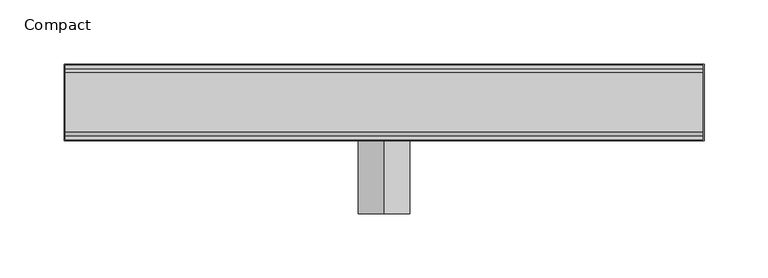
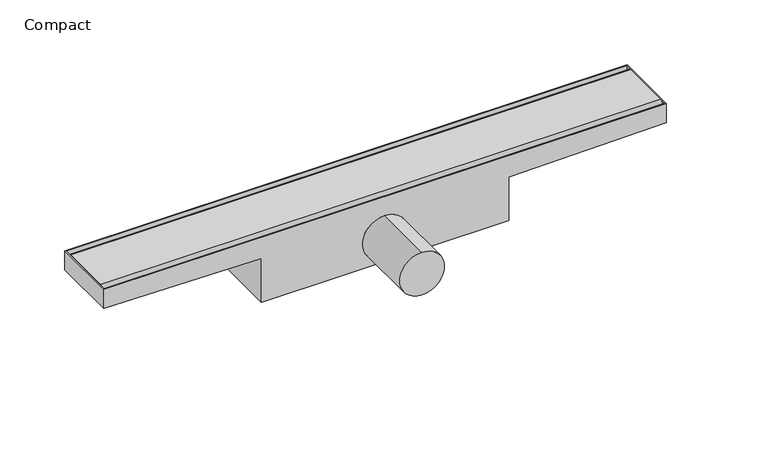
"""IFC4 building model written with IfcOpenShell, lengths in millimetres: sanitary terminal geometry, NLRS_PF_52_UN_Compact_Easydrain : Compact."""

from ifc_helpers import new_model, si_unit, point, frame, frame_2d, origin, place, context, project, spatial, polyline, circle_curve, trimmed, segment, composite_curve, outline, extrude, source, transform, mapped, element, save
from ifc_brep_helpers import plane_surface, cylinder_surface, advanced_brep


def compact_608fc20b(model_context):
    return source(origin(), model_context, "Body", "SolidModel", [
        extrude(outline(composite_curve([segment(polyline([(-23.0, 0.0), (23.0, 0.0)]), True, "CONTINUOUS"), segment(trimmed(circle_curve(frame_2d((23.0, -3.0)), 3.0), [point((23.0, 0.0))], [point((26.0, -3.0))], False, "CARTESIAN"), True, "CONTINUOUS"), segment(polyline([(26.0, -3.0), (26.0, -12.0), (-26.0, -12.0), (-26.0, -3.0)]), True, "CONTINUOUS"), segment(trimmed(circle_curve(frame_2d((-23.0, -3.0)), 3.0), [point((-26.0, -3.0))], [point((-23.0, 0.0))], False, "CARTESIAN"), True, "CONTINUOUS")], self_intersect=False)), frame((-249.0, 0.0, 0.0), z_axis=(1.0, 0.0, 0.0), x_axis=(0.0, 1.0, 0.0)), (0.0, 0.0, 1.0), 498.0),
        advanced_brep(
        [(-250.0, -30.0, -18.0), (-110.0, -30.0, -20.0), (-110.0, -30.0, -61.0), (110.0, -30.0, -61.0), (110.0, -30.0, -20.0), (250.0, -30.0, -18.0), (250.0, -30.0, 0.0), (-250.0, -30.0, 0.0), (0.0, -30.0, -18.0), (0.0, -30.0, -58.0), (-250.0, 30.0, -18.0), (-250.0, 30.0, 0.0), (250.0, 30.0, 0.0), (250.0, 30.0, -18.0), (110.0, 30.0, -20.0), (110.0, 30.0, -61.0), (-110.0, 30.0, -61.0), (-110.0, 30.0, -20.0), (-249.0, 29.0, 0.0), (249.0, 29.0, 0.0), (249.0, -29.0, 0.0), (-249.0, -29.0, 0.0), (0.0, -87.0466767, -18.0), (0.0, -87.0466767, -58.0), (249.0, 29.0, -12.0), (-249.0, 29.0, -12.0), (-249.0, -29.0, -12.0), (249.0, -29.0, -12.0)],
        [
            (0, 1),
            (1, 2),
            (2, 3),
            (3, 4),
            (4, 5),
            (5, 6),
            (6, 7),
            (7, 0),
            (8, 9, circle_curve(frame((0.0, -30.0, -38.0), z_axis=(0.0, 1.0, 0.0), x_axis=(0.0, 0.0, -1.0)), 20.0)),
            (9, 8, circle_curve(frame((0.0, -30.0, -38.0), z_axis=(0.0, 1.0, 0.0), x_axis=(0.0, 0.0, -1.0)), 20.0)),
            (10, 11),
            (11, 12),
            (12, 13),
            (13, 14),
            (14, 15),
            (15, 16),
            (16, 17),
            (17, 10),
            (0, 10),
            (17, 1),
            (5, 13),
            (12, 6),
            (11, 7),
            (18, 19),
            (19, 20),
            (20, 21),
            (21, 18),
            (16, 2),
            (15, 3),
            (14, 4),
            (22, 23, circle_curve(frame((0.0, -87.0466767, -38.0), z_axis=(0.0, -1.0, 0.0), x_axis=(0.0, 0.0, -1.0)), 20.0)),
            (23, 22, circle_curve(frame((0.0, -87.0466767, -38.0), z_axis=(0.0, -1.0, 0.0), x_axis=(0.0, 0.0, -1.0)), 20.0)),
            (23, 9),
            (8, 22),
            (24, 25),
            (25, 26),
            (26, 27),
            (27, 24),
            (24, 19),
            (18, 25),
            (21, 26),
            (20, 27),
        ],
        [
            plane_surface(frame((-250.0, -30.0, -18.0), z_axis=(0.0, -1.0, 0.0), x_axis=(0.99989797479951, 0.0, -0.014284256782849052))),
            plane_surface(frame((-250.0, 30.0, -18.0), z_axis=(0.0, 1.0, 0.0), x_axis=(-0.99989797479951, 0.0, 0.014284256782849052))),
            plane_surface(frame((-250.0, -30.0, -18.0), z_axis=(-0.014284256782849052, 0.0, -0.99989797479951), x_axis=(0.0, 1.0, 0.0))),
            plane_surface(frame((250.0, -30.0, -18.0), z_axis=(1.0, 0.0, 0.0), x_axis=(0.0, 1.0, 0.0))),
            plane_surface(frame((250.0, -30.0, 0.0), z_axis=(0.0, 0.0, 1.0), x_axis=(0.0, 1.0, 0.0))),
            plane_surface(frame((-250.0, -30.0, 0.0), z_axis=(-1.0, 0.0, 0.0), x_axis=(0.0, 1.0, 0.0))),
            plane_surface(frame((-110.0, -30.0, -20.0), z_axis=(-1.0, 0.0, 0.0), x_axis=(0.0, 1.0, 0.0))),
            plane_surface(frame((-110.0, -30.0, -61.0), z_axis=(0.0, 0.0, -1.0), x_axis=(0.0, 1.0, 0.0))),
            plane_surface(frame((110.0, -30.0, -61.0), z_axis=(1.0, 0.0, 0.0), x_axis=(0.0, 1.0, 0.0))),
            plane_surface(frame((110.0, -30.0, -20.0), z_axis=(0.01428425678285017, 0.0, -0.99989797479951), x_axis=(0.0, 1.0, 0.0))),
            plane_surface(frame((0.0, -87.0466767, -38.0), z_axis=(0.0, -1.0, 0.0), x_axis=(1.0, 0.0, 0.0))),
            cylinder_surface(frame((0.0, 0.0, -38.0), z_axis=(0.0, 1.0, 0.0), x_axis=(0.0, 0.0, -1.0)), 20.0),
            plane_surface(frame((-249.0, 29.0, -12.0), z_axis=(0.0, 0.0, 1.0), x_axis=(1.0, 0.0, 0.0))),
            plane_surface(frame((249.0, 29.0, 0.0), z_axis=(0.0, -1.0, 0.0), x_axis=(0.0, 0.0, -1.0))),
            plane_surface(frame((-249.0, 29.0, 0.0), z_axis=(1.0, 0.0, 0.0), x_axis=(0.0, 0.0, -1.0))),
            plane_surface(frame((-249.0, -29.0, 0.0), z_axis=(0.0, 1.0, 0.0), x_axis=(0.0, 0.0, -1.0))),
            plane_surface(frame((249.0, -29.0, 0.0), z_axis=(-1.0, 0.0, 0.0), x_axis=(0.0, 0.0, -1.0))),
        ],
        [
            (0, [[1, 2, 3, 4, 5, 6, 7, 8], [9, 10]]),
            (1, [[11, 12, 13, 14, 15, 16, 17, 18]]),
            (2, [[-1, 19, -18, 20]]),
            (3, [[-6, 21, -13, 22]]),
            (4, [[-7, -22, -12, 23], [24, 25, 26, 27]]),
            (5, [[-8, -23, -11, -19]]),
            (6, [[-2, -20, -17, 28]]),
            (7, [[-3, -28, -16, 29]]),
            (8, [[-4, -29, -15, 30]]),
            (9, [[-5, -30, -14, -21]]),
            (10, [[31, 32]]),
            (11, [[-32, 33, -9, 34]]),
            (11, [[-31, -34, -10, -33]]),
            (12, [[35, 36, 37, 38]]),
            (13, [[-35, 39, -24, 40]]),
            (14, [[-36, -40, -27, 41]]),
            (15, [[-37, -41, -26, 42]]),
            (16, [[-38, -42, -25, -39]]),
        ],
    ),
    ])


if __name__ == "__main__":
    model = new_model("IFC4")
    model_context = context("Model", 3, world=origin())
    ifc_project = project(units=[si_unit("LENGTHUNIT", "METRE", prefix="MILLI")], contexts=[model_context])
    site = spatial("IfcSite", under=ifc_project)
    building = spatial("IfcBuilding", under=site)
    placement = place(None, origin())
    compact_shape = compact_608fc20b(model_context)
    element("IfcSanitaryTerminal", 1, ObjectType="NLRS_PF_52_UN_Compact_Easydrain : Compact", at=placement, inside=building, context=model_context, shape_type="MappedRepresentation", body=[
        mapped(compact_shape, transform((0.0, 0.0, 0.0), x_axis=(1.0, 0.0, 0.0), y_axis=(0.0, 1.0, 0.0), z_axis=(0.0, 0.0, 1.0))),
    ])
    save(model, "model.ifc")
